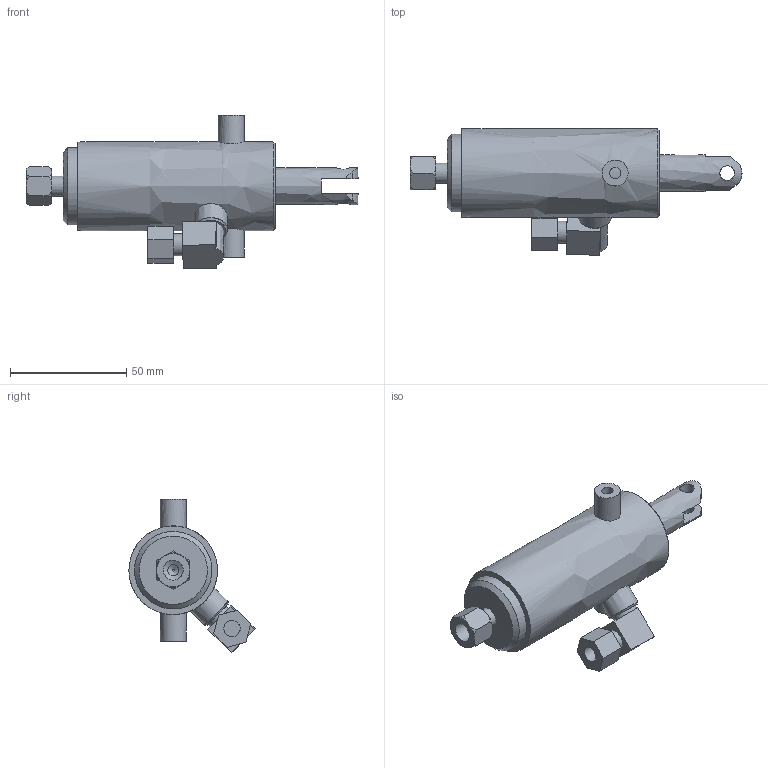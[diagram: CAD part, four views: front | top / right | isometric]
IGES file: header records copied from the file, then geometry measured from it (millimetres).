
Global section: file name: cy-201; native system: Autodesk RealDWG; preprocessor: Autodesk Translation Framework DWG producer (atf_dwg_producer); author: rtaylor; organization: unknown; date: 20151123.154919; units: inch
Bounding box: 142.71 x 54.23 x 66.16 mm (x, y, z)
Volume: 75387.4 mm3; surface area: 45101.4 mm2
Topology: 10 solids, 10 shells, 162 faces, 431 edges, 325 vertices
Faces by surface type: bspline 157, revolution 5
